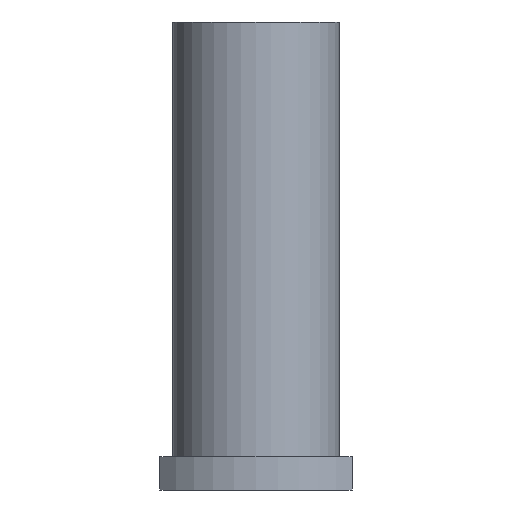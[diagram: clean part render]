
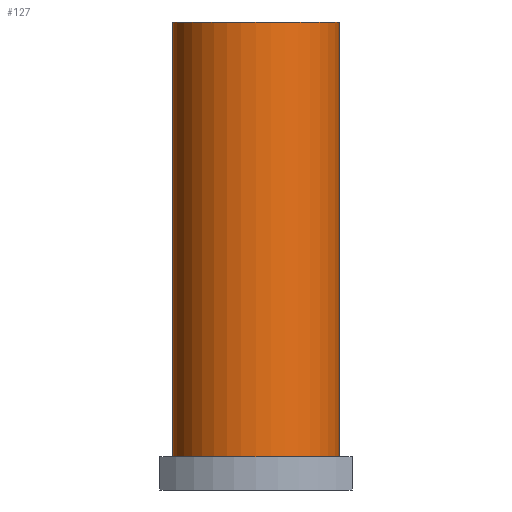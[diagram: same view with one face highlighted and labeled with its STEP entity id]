
A CAD part, front view. The second image highlights one B-rep face of the part: STEP entity #127.
In plain terms, the highlighted cylindrical face has radius 20 mm (diameter 40 mm), a partial arc.
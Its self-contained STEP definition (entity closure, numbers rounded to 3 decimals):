
#86=CARTESIAN_POINT('',(18.,-15.555,0.0));
#87=DIRECTION('',(0.0,0.0,1.0));
#88=DIRECTION('',(-1.0,0.0,0.0));
#89=AXIS2_PLACEMENT_3D('',#86,#87,#88);
#90=CYLINDRICAL_SURFACE('',#89,20.0);
#91=CARTESIAN_POINT('',(-2.,-15.555,8.));
#92=VERTEX_POINT('',#91);
#93=CARTESIAN_POINT('',(-2.,-15.555,112.));
#94=VERTEX_POINT('',#93);
#95=CARTESIAN_POINT('',(-2.,-15.555,8.));
#96=DIRECTION('',(0.0,0.0,1.0));
#97=VECTOR('',#96,104.);
#98=LINE('',#95,#97);
#99=EDGE_CURVE('',#92,#94,#98,.T.);
#100=ORIENTED_EDGE('',*,*,#99,.F.);
#101=CARTESIAN_POINT('',(38.,-15.555,8.0));
#102=VERTEX_POINT('',#101);
#103=CARTESIAN_POINT('',(18.,-15.555,8.0));
#104=DIRECTION('',(0.0,0.0,-1.0));
#105=DIRECTION('',(-1.0,0.0,0.0));
#106=AXIS2_PLACEMENT_3D('',#103,#104,#105);
#107=CIRCLE('',#106,20.0);
#108=EDGE_CURVE('',#102,#92,#107,.T.);
#109=ORIENTED_EDGE('',*,*,#108,.F.);
#110=CARTESIAN_POINT('',(38.,-15.555,112.));
#111=VERTEX_POINT('',#110);
#112=CARTESIAN_POINT('',(38.,-15.555,112.));
#113=DIRECTION('',(0.0,0.0,-1.0));
#114=VECTOR('',#113,104.);
#115=LINE('',#112,#114);
#116=EDGE_CURVE('',#111,#102,#115,.T.);
#117=ORIENTED_EDGE('',*,*,#116,.F.);
#118=CARTESIAN_POINT('',(18.,-15.555,112.));
#119=DIRECTION('',(0.0,0.0,-1.0));
#120=DIRECTION('',(-1.0,0.0,0.0));
#121=AXIS2_PLACEMENT_3D('',#118,#119,#120);
#122=CIRCLE('',#121,20.0);
#123=EDGE_CURVE('',#111,#94,#122,.T.);
#124=ORIENTED_EDGE('',*,*,#123,.T.);
#125=EDGE_LOOP('',(#100,#109,#117,#124));
#126=FACE_OUTER_BOUND('',#125,.T.);
#127=ADVANCED_FACE('',(#126),#90,.T.);
